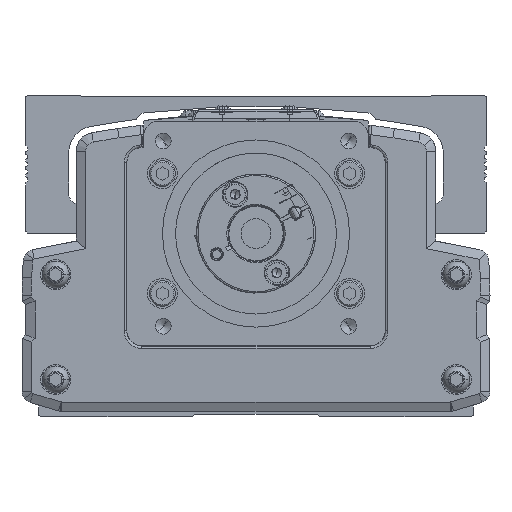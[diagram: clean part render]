
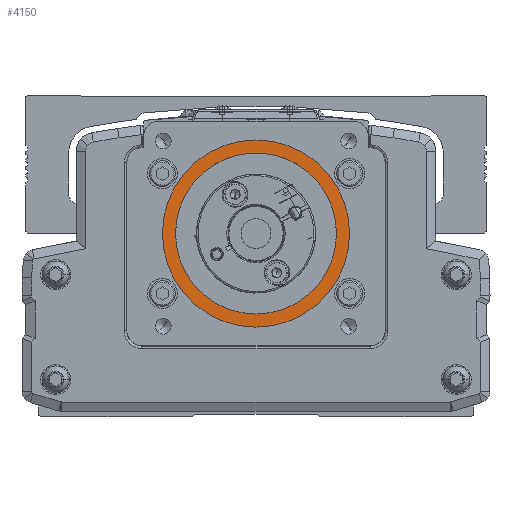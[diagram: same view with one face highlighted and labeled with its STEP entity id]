
A CAD part, front view. The second image highlights one B-rep face of the part: STEP entity #4150.
In plain terms, the highlighted planar face has unit normal (0, -1, 0).
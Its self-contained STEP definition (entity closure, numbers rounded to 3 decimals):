
#4150=ADVANCED_FACE('',(#10981,#10982),#10983,.T.);
#10981=FACE_BOUND('',#21324,.T.);
#10982=FACE_OUTER_BOUND('',#21325,.T.);
#10983=PLANE('',#21326);
#21324=EDGE_LOOP('',(#35001,#35002));
#21325=EDGE_LOOP('',(#35003,#35004));
#21326=AXIS2_PLACEMENT_3D('',#35005,#35006,#35007);
#35001=ORIENTED_EDGE('',*,*,#62274,.F.);
#35002=ORIENTED_EDGE('',*,*,#62275,.F.);
#35003=ORIENTED_EDGE('',*,*,#62276,.F.);
#35004=ORIENTED_EDGE('',*,*,#62277,.F.);
#35005=CARTESIAN_POINT('',(-300.,-235.778,0.));
#35006=DIRECTION('',(0.,-1.0,0.));
#35007=DIRECTION('',(1.0,0.,0.));
#62274=EDGE_CURVE('',#74799,#74800,#74801,.T.);
#62275=EDGE_CURVE('',#74800,#74799,#74802,.T.);
#62276=EDGE_CURVE('',#74803,#74804,#74805,.T.);
#62277=EDGE_CURVE('',#74804,#74803,#74806,.T.);
#74799=VERTEX_POINT('',#92545);
#74800=VERTEX_POINT('',#92546);
#74801=CIRCLE('',#92547,21.5);
#74802=CIRCLE('',#92548,21.5);
#74803=VERTEX_POINT('',#92549);
#74804=VERTEX_POINT('',#92550);
#74805=CIRCLE('',#92551,25.0);
#74806=CIRCLE('',#92552,25.0);
#92545=CARTESIAN_POINT('',(-278.5,-235.778,0.));
#92546=CARTESIAN_POINT('',(-321.5,-235.778,0.));
#92547=AXIS2_PLACEMENT_3D('',#113487,#113488,#113489);
#92548=AXIS2_PLACEMENT_3D('',#113490,#113491,#113492);
#92549=CARTESIAN_POINT('',(-275.,-235.778,0.));
#92550=CARTESIAN_POINT('',(-325.,-235.778,0.));
#92551=AXIS2_PLACEMENT_3D('',#113493,#113494,#113495);
#92552=AXIS2_PLACEMENT_3D('',#113496,#113497,#113498);
#113487=CARTESIAN_POINT('',(-300.,-235.778,0.));
#113488=DIRECTION('',(0.,-1.0,0.));
#113489=DIRECTION('',(1.0,0.,0.));
#113490=CARTESIAN_POINT('',(-300.,-235.778,0.));
#113491=DIRECTION('',(0.,-1.0,0.));
#113492=DIRECTION('',(1.0,0.,0.));
#113493=CARTESIAN_POINT('',(-300.,-235.778,0.));
#113494=DIRECTION('',(0.,1.0,0.));
#113495=DIRECTION('',(1.0,0.,0.));
#113496=CARTESIAN_POINT('',(-300.,-235.778,0.));
#113497=DIRECTION('',(0.,1.0,0.));
#113498=DIRECTION('',(1.0,0.,0.));
